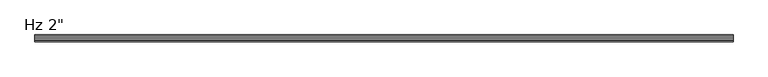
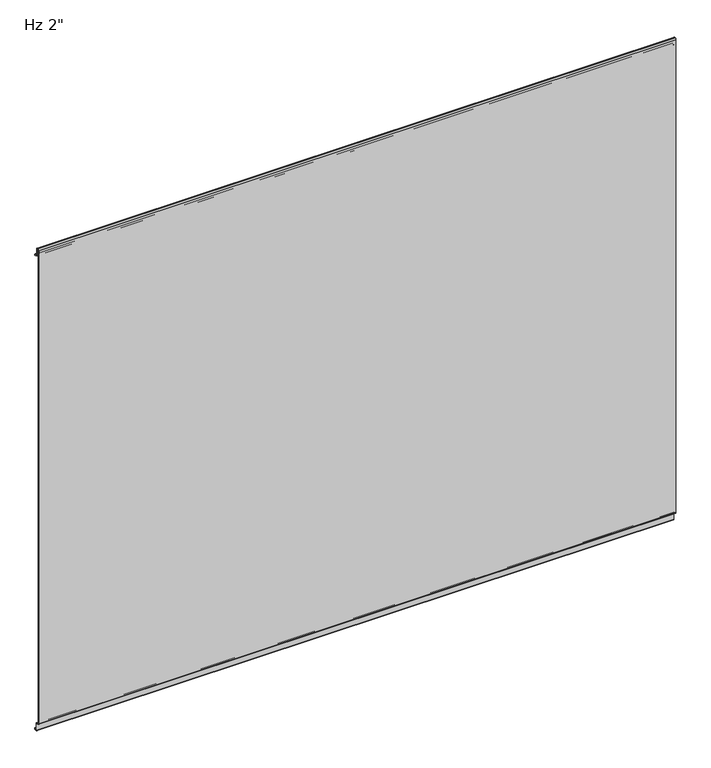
"""IFC4 building model written with IfcOpenShell, lengths in millimetres: plate geometry."""

from ifc_helpers import new_model, si_unit, frame, origin, place, context, project, spatial, polyline, circle_curve, source, transform, mapped, element, save
from ifc_brep_helpers import plane_surface, cylinder_surface, revolved_surface, advanced_brep


def plate_7cffec9f(model_context):
    return source(origin(), model_context, "Body", "AdvancedBrep", [
        advanced_brep(
        [(-730.0, -47.8223811, 3.8501063), (-730.0, -45.5308685, 3.8501063), (-730.0, -41.5535232, -0.1272391), (-730.0, -41.5535232, -15.7237514), (-730.0, -40.965666, -16.3116086), (-730.0, -37.8941346, -16.3116086), (-730.0, -37.3062635, -15.7237374), (-730.0, -37.3062635, -13.3687064), (-730.0, -36.3062599, -13.3687064), (-730.0, -36.3062599, -15.7237419), (-730.0, -37.8941364, -17.3116185), (-730.0, -40.9656851, -17.3116185), (-730.0, -42.5535616, -15.7237419), (-730.0, -42.5535616, -0.1273159), (-730.0, -45.5308302, 2.8499526), (-730.0, -47.822714, 2.8499526), (-730.0, -50.7999825, 5.8272211), (-730.0, -50.8, 1150.8100652), (-730.0, -47.8227315, 1153.7873337), (-730.0, -46.7806329, 1153.7873337), (-730.0, -43.8033644, 1150.8100652), (-730.0, -43.8033644, 1136.6216801), (-730.0, -42.2154878, 1135.0338036), (-730.0, -37.8950697, 1135.0338036), (-730.0, -36.3066023, 1133.3929042), (-730.0, -36.3066023, 1131.0482432), (-730.0, -37.3060472, 1131.0482432), (-730.0, -37.3060472, 1133.4253599), (-730.0, -37.8950842, 1134.0338971), (-730.0, -42.2153166, 1134.0338971), (-730.0, -44.8030166, 1136.6215971), (-730.0, -44.8030166, 1150.8107568), (-730.0, -46.780978, 1152.7887182), (-730.0, -47.82341, 1152.7887182), (-730.0, -49.7992912, 1150.812837), (-730.0, -49.7992912, 5.8270163), (730.0, -47.8223811, 3.8501063), (730.0, -49.7992912, 5.8270163), (730.0, -49.7992912, 1150.812837), (730.0, -47.82341, 1152.7887182), (730.0, -46.780978, 1152.7887182), (730.0, -44.8030166, 1150.8107568), (730.0, -44.8030166, 1136.6215971), (730.0, -42.2153166, 1134.0338971), (730.0, -37.8950842, 1134.0338971), (730.0, -37.3060472, 1133.4253599), (730.0, -37.3060472, 1131.0482432), (730.0, -36.3066023, 1131.0482432), (730.0, -36.3066023, 1133.3929042), (730.0, -37.8950697, 1135.0338036), (730.0, -42.2154878, 1135.0338036), (730.0, -43.8033644, 1136.6216801), (730.0, -43.8033644, 1150.8100652), (730.0, -46.7806329, 1153.7873337), (730.0, -47.8227315, 1153.7873337), (730.0, -50.8, 1150.8100652), (730.0, -50.8, 5.8272211), (730.0, -47.822714, 2.8499526), (730.0, -45.5308302, 2.8499526), (730.0, -42.5535616, -0.1273159), (730.0, -42.5535616, -15.7237419), (730.0, -40.9656851, -17.3116185), (730.0, -37.8941364, -17.3116185), (730.0, -36.3062599, -15.7237419), (730.0, -36.3062599, -13.3687064), (730.0, -37.3062635, -13.3687064), (730.0, -37.3062635, -15.7237374), (730.0, -37.8941346, -16.3116086), (730.0, -40.965666, -16.3116086), (730.0, -41.5535232, -15.7237514), (730.0, -41.5535232, -0.1272391), (730.0, -45.5308685, 3.8501063)],
        [
            (0, 1),
            (1, 2, circle_curve(frame((-730.0, -45.5308685, -0.1272391), z_axis=(-1.0, 0.0, 0.0), x_axis=(0.0, 0.0, -1.0)), 3.9773454)),
            (2, 3),
            (3, 4, circle_curve(frame((-730.0, -40.965666, -15.7237514), z_axis=(1.0, 0.0, 0.0), x_axis=(0.0, 0.0, -1.0)), 0.5878572)),
            (4, 5),
            (5, 6, circle_curve(frame((-730.0, -37.8941346, -15.7237374), z_axis=(1.0, 0.0, 0.0), x_axis=(0.0, 0.0, -1.0)), 0.5878711)),
            (6, 7),
            (7, 8),
            (8, 9),
            (9, 10, circle_curve(frame((-730.0, -37.8941364, -15.7237419), z_axis=(-1.0, 0.0, 0.0), x_axis=(0.0, 0.0, -1.0)), 1.5878765)),
            (10, 11),
            (11, 12, circle_curve(frame((-730.0, -40.9656851, -15.7237419), z_axis=(-1.0, 0.0, 0.0), x_axis=(0.0, 0.0, -1.0)), 1.5878765)),
            (12, 13),
            (13, 14, circle_curve(frame((-730.0, -45.5308302, -0.1273159), z_axis=(1.0, 0.0, 0.0), x_axis=(0.0, 0.0, -1.0)), 2.9772685)),
            (14, 15),
            (15, 16, circle_curve(frame((-730.0, -47.822714, 5.8272211), z_axis=(-1.0, 0.0, 0.0), x_axis=(0.0, 0.0, -1.0)), 2.9772685)),
            (16, 17),
            (17, 18, circle_curve(frame((-730.0, -47.8227315, 1150.8100652), z_axis=(-1.0, 0.0, 0.0), x_axis=(0.0, 0.0, -1.0)), 2.9772685)),
            (18, 19),
            (19, 20, circle_curve(frame((-730.0, -46.7806329, 1150.8100652), z_axis=(-1.0, 0.0, 0.0), x_axis=(0.0, 0.0, -1.0)), 2.9772685)),
            (20, 21),
            (21, 22, circle_curve(frame((-730.0, -42.2154878, 1136.6216801), z_axis=(1.0, 0.0, 0.0), x_axis=(0.0, 0.0, -1.0)), 1.5878765)),
            (22, 23),
            (23, 24, circle_curve(frame((-730.0, -37.8950697, 1133.4444985), z_axis=(-1.0, 0.0, 0.0), x_axis=(0.0, 0.0, -1.0)), 1.5893051)),
            (24, 25),
            (25, 26),
            (26, 27),
            (27, 28, circle_curve(frame((-730.0, -37.8950842, 1133.4445477), z_axis=(1.0, 0.0, 0.0), x_axis=(0.0, 0.0, -1.0)), 0.5893495)),
            (28, 29),
            (29, 30, circle_curve(frame((-730.0, -42.2153166, 1136.6215971), z_axis=(-1.0, 0.0, 0.0), x_axis=(0.0, 0.0, -1.0)), 2.5877)),
            (30, 31),
            (31, 32, circle_curve(frame((-730.0, -46.780978, 1150.8107568), z_axis=(1.0, 0.0, 0.0), x_axis=(0.0, 0.0, -1.0)), 1.9779614)),
            (32, 33),
            (33, 34, circle_curve(frame((-730.0, -47.82341, 1150.812837), z_axis=(1.0, 0.0, 0.0), x_axis=(0.0, 0.0, -1.0)), 1.9758812)),
            (34, 35),
            (35, 0, circle_curve(frame((-730.0, -47.8223811, 5.8270163), z_axis=(1.0, 0.0, 0.0), x_axis=(0.0, 0.0, -1.0)), 1.9769101)),
            (36, 37, circle_curve(frame((730.0, -47.8223811, 5.8270163), z_axis=(-1.0, 0.0, 0.0), x_axis=(0.0, 0.0, -1.0)), 1.9769101)),
            (37, 38),
            (38, 39, circle_curve(frame((730.0, -47.82341, 1150.812837), z_axis=(-1.0, 0.0, 0.0), x_axis=(0.0, 0.0, -1.0)), 1.9758812)),
            (39, 40),
            (40, 41, circle_curve(frame((730.0, -46.780978, 1150.8107568), z_axis=(-1.0, 0.0, 0.0), x_axis=(0.0, 0.0, -1.0)), 1.9779614)),
            (41, 42),
            (42, 43, circle_curve(frame((730.0, -42.2153166, 1136.6215971), z_axis=(1.0, 0.0, 0.0), x_axis=(0.0, 0.0, -1.0)), 2.5877)),
            (43, 44),
            (44, 45, circle_curve(frame((730.0, -37.8950842, 1133.4445477), z_axis=(-1.0, 0.0, 0.0), x_axis=(0.0, 0.0, -1.0)), 0.5893495)),
            (45, 46),
            (46, 47),
            (47, 48),
            (48, 49, circle_curve(frame((730.0, -37.8950697, 1133.4444985), z_axis=(1.0, 0.0, 0.0), x_axis=(0.0, 0.0, -1.0)), 1.5893051)),
            (49, 50),
            (50, 51, circle_curve(frame((730.0, -42.2154878, 1136.6216801), z_axis=(-1.0, 0.0, 0.0), x_axis=(0.0, 0.0, -1.0)), 1.5878765)),
            (51, 52),
            (52, 53, circle_curve(frame((730.0, -46.7806329, 1150.8100652), z_axis=(1.0, 0.0, 0.0), x_axis=(0.0, 0.0, -1.0)), 2.9772685)),
            (53, 54),
            (54, 55, circle_curve(frame((730.0, -47.8227315, 1150.8100652), z_axis=(1.0, 0.0, 0.0), x_axis=(0.0, 0.0, -1.0)), 2.9772685)),
            (55, 56),
            (56, 57, circle_curve(frame((730.0, -47.822714, 5.8272211), z_axis=(1.0, 0.0, 0.0), x_axis=(0.0, 0.0, -1.0)), 2.9772685)),
            (57, 58),
            (58, 59, circle_curve(frame((730.0, -45.5308302, -0.1273159), z_axis=(-1.0, 0.0, 0.0), x_axis=(0.0, 0.0, -1.0)), 2.9772685)),
            (59, 60),
            (60, 61, circle_curve(frame((730.0, -40.9656851, -15.7237419), z_axis=(1.0, 0.0, 0.0), x_axis=(0.0, 0.0, -1.0)), 1.5878765)),
            (61, 62),
            (62, 63, circle_curve(frame((730.0, -37.8941364, -15.7237419), z_axis=(1.0, 0.0, 0.0), x_axis=(0.0, 0.0, -1.0)), 1.5878765)),
            (63, 64),
            (64, 65),
            (65, 66),
            (66, 67, circle_curve(frame((730.0, -37.8941346, -15.7237374), z_axis=(-1.0, 0.0, 0.0), x_axis=(0.0, 0.0, -1.0)), 0.5878711)),
            (67, 68),
            (68, 69, circle_curve(frame((730.0, -40.965666, -15.7237514), z_axis=(-1.0, 0.0, 0.0), x_axis=(0.0, 0.0, -1.0)), 0.5878572)),
            (69, 70),
            (70, 71, circle_curve(frame((730.0, -45.5308685, -0.1272391), z_axis=(1.0, 0.0, 0.0), x_axis=(0.0, 0.0, -1.0)), 3.9773454)),
            (71, 36),
            (35, 37),
            (36, 0),
            (34, 38),
            (33, 39),
            (32, 40),
            (31, 41),
            (30, 42),
            (29, 43),
            (28, 44),
            (27, 45),
            (26, 46),
            (25, 47),
            (24, 48),
            (23, 49),
            (22, 50),
            (21, 51),
            (20, 52),
            (19, 53),
            (18, 54),
            (17, 55),
            (16, 56),
            (15, 57),
            (14, 58),
            (13, 59),
            (12, 60),
            (11, 61),
            (10, 62),
            (9, 63),
            (8, 64),
            (7, 65),
            (6, 66),
            (5, 67),
            (4, 68),
            (3, 69),
            (2, 70),
            (1, 71),
        ],
        [
            plane_surface(frame((-730.0, -50.8, 576.2625), z_axis=(-1.0, 0.0, 0.0), x_axis=(0.0, -1.0, 0.0))),
            plane_surface(frame((730.0, -50.8, 576.2625), z_axis=(1.0, 0.0, 0.0), x_axis=(0.0, -1.0, 0.0))),
            revolved_surface(polyline([(730.0, -47.8223811, 3.8501062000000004), (-730.0, -47.8223811, 3.8501062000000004)]), (-730.0, -47.8223811, 5.8270163), (1.0, 0.0, 0.0)),
            plane_surface(frame((-730.0, -49.7992912, 5.8270163), z_axis=(0.0, 1.0, 0.0), x_axis=(1.0, 0.0, 0.0))),
            revolved_surface(polyline([(730.0, -47.82341, 1148.8369558), (-730.0, -47.82341, 1148.8369558)]), (-730.0, -47.82341, 1150.812837), (1.0, 0.0, 0.0)),
            plane_surface(frame((-730.0, -47.82341, 1152.7887182), z_axis=(0.0, 0.0, -1.0), x_axis=(1.0, 0.0, 0.0))),
            revolved_surface(polyline([(730.0, -46.780978, 1148.8327954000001), (-730.0, -46.780978, 1148.8327954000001)]), (-730.0, -46.780978, 1150.8107568), (1.0, 0.0, 0.0)),
            plane_surface(frame((-730.0, -44.8030166, 1150.8107568), z_axis=(0.0, -1.0, 0.0), x_axis=(1.0, 0.0, 0.0))),
            cylinder_surface(frame((-730.0, -42.2153166, 1136.6215971), z_axis=(-1.0, 0.0, 0.0), x_axis=(0.0, 0.0, -1.0)), 2.5877),
            plane_surface(frame((-730.0, -42.2153166, 1134.0338971), z_axis=(0.0, 0.0, -1.0), x_axis=(1.0, 0.0, 0.0))),
            revolved_surface(polyline([(730.0, -37.8950842, 1132.8551982), (-730.0, -37.8950842, 1132.8551982)]), (-730.0, -37.8950842, 1133.4445477), (1.0, 0.0, 0.0)),
            plane_surface(frame((-730.0, -37.3060472, 1133.4253599), z_axis=(0.0, -1.0, 0.0), x_axis=(1.0, 0.0, 0.0))),
            plane_surface(frame((-730.0, -37.3060472, 1131.0482432), z_axis=(0.0, 0.0, -1.0), x_axis=(1.0, 0.0, 0.0))),
            plane_surface(frame((-730.0, -36.3066023, 1131.0482432), z_axis=(0.0, 1.0, 0.0), x_axis=(1.0, 0.0, 0.0))),
            cylinder_surface(frame((-730.0, -37.8950697, 1133.4444985), z_axis=(-1.0, 0.0, 0.0), x_axis=(0.0, 0.0, -1.0)), 1.5893051),
            plane_surface(frame((-730.0, -37.8950697, 1135.0338036), z_axis=(0.0, 0.0, 1.0), x_axis=(1.0, 0.0, 0.0))),
            revolved_surface(polyline([(730.0, -42.2154878, 1135.0338036), (-730.0, -42.2154878, 1135.0338036)]), (-730.0, -42.2154878, 1136.6216801), (1.0, 0.0, 0.0)),
            plane_surface(frame((-730.0, -43.8033644, 1136.6216801), z_axis=(0.0, 1.0, 0.0), x_axis=(1.0, 0.0, 0.0))),
            cylinder_surface(frame((-730.0, -46.7806329, 1150.8100652), z_axis=(-1.0, 0.0, 0.0), x_axis=(0.0, 0.0, -1.0)), 2.9772685),
            plane_surface(frame((-730.0, -46.7806329, 1153.7873337), z_axis=(0.0, 0.0, 1.0), x_axis=(1.0, 0.0, 0.0))),
            cylinder_surface(frame((-730.0, -47.8227315, 1150.8100652), z_axis=(-1.0, 0.0, 0.0), x_axis=(0.0, 0.0, -1.0)), 2.9772685),
            plane_surface(frame((-730.0, -50.8, 1150.8100652), z_axis=(0.0, -1.0, 0.0), x_axis=(1.0, 0.0, 0.0))),
            cylinder_surface(frame((-730.0, -47.822714, 5.8272211), z_axis=(-1.0, 0.0, 0.0), x_axis=(0.0, 0.0, -1.0)), 2.9772685),
            plane_surface(frame((-730.0, -47.822714, 2.8499526), z_axis=(0.0, 0.0, -1.0), x_axis=(1.0, 0.0, 0.0))),
            revolved_surface(polyline([(730.0, -45.5308302, -3.1045844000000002), (-730.0, -45.5308302, -3.1045844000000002)]), (-730.0, -45.5308302, -0.1273159), (1.0, 0.0, 0.0)),
            plane_surface(frame((-730.0, -42.5535616, -0.1273159), z_axis=(0.0, -1.0, 0.0), x_axis=(1.0, 0.0, 0.0))),
            cylinder_surface(frame((-730.0, -40.9656851, -15.7237419), z_axis=(-1.0, 0.0, 0.0), x_axis=(0.0, 0.0, -1.0)), 1.5878765),
            plane_surface(frame((-730.0, -40.9656851, -17.3116185), z_axis=(0.0, 0.0, -1.0), x_axis=(1.0, 0.0, 0.0))),
            cylinder_surface(frame((-730.0, -37.8941364, -15.7237419), z_axis=(-1.0, 0.0, 0.0), x_axis=(0.0, 0.0, -1.0)), 1.5878765),
            plane_surface(frame((-730.0, -36.3062599, -15.7237419), z_axis=(0.0, 1.0, 0.0), x_axis=(1.0, 0.0, 0.0))),
            plane_surface(frame((-730.0, -36.3062599, -13.3687064), z_axis=(0.0, 0.0, 1.0), x_axis=(1.0, 0.0, 0.0))),
            plane_surface(frame((-730.0, -37.3062635, -13.3687064), z_axis=(0.0, -1.0, 0.0), x_axis=(1.0, 0.0, 0.0))),
            revolved_surface(polyline([(730.0, -37.8941346, -16.3116085), (-730.0, -37.8941346, -16.3116085)]), (-730.0, -37.8941346, -15.7237374), (1.0, 0.0, 0.0)),
            plane_surface(frame((-730.0, -37.8941346, -16.3116086), z_axis=(0.0, 0.0, 1.0), x_axis=(1.0, 0.0, 0.0))),
            revolved_surface(polyline([(730.0, -40.965666, -16.3116086), (-730.0, -40.965666, -16.3116086)]), (-730.0, -40.965666, -15.7237514), (1.0, 0.0, 0.0)),
            plane_surface(frame((-730.0, -41.5535232, -15.7237514), z_axis=(0.0, 1.0, 0.0), x_axis=(1.0, 0.0, 0.0))),
            cylinder_surface(frame((-730.0, -45.5308685, -0.1272391), z_axis=(-1.0, 0.0, 0.0), x_axis=(0.0, 0.0, -1.0)), 3.9773454),
            plane_surface(frame((-730.0, -45.5308685, 3.8501063), z_axis=(0.0, 0.0, 1.0), x_axis=(1.0, 0.0, 0.0))),
        ],
        [
            (0, [[1, 2, 3, 4, 5, 6, 7, 8, 9, 10, 11, 12, 13, 14, 15, 16, 17, 18, 19, 20, 21, 22, 23, 24, 25, 26, 27, 28, 29, 30, 31, 32, 33, 34, 35, 36]]),
            (1, [[37, 38, 39, 40, 41, 42, 43, 44, 45, 46, 47, 48, 49, 50, 51, 52, 53, 54, 55, 56, 57, 58, 59, 60, 61, 62, 63, 64, 65, 66, 67, 68, 69, 70, 71, 72]]),
            (2, [[73, -37, 74, -36]]),
            (3, [[75, -38, -73, -35]]),
            (4, [[76, -39, -75, -34]]),
            (5, [[77, -40, -76, -33]]),
            (6, [[78, -41, -77, -32]]),
            (7, [[79, -42, -78, -31]]),
            (8, [[80, -43, -79, -30]]),
            (9, [[81, -44, -80, -29]]),
            (10, [[82, -45, -81, -28]]),
            (11, [[83, -46, -82, -27]]),
            (12, [[84, -47, -83, -26]]),
            (13, [[85, -48, -84, -25]]),
            (14, [[86, -49, -85, -24]]),
            (15, [[87, -50, -86, -23]]),
            (16, [[88, -51, -87, -22]]),
            (17, [[89, -52, -88, -21]]),
            (18, [[90, -53, -89, -20]]),
            (19, [[91, -54, -90, -19]]),
            (20, [[92, -55, -91, -18]]),
            (21, [[93, -56, -92, -17]]),
            (22, [[94, -57, -93, -16]]),
            (23, [[95, -58, -94, -15]]),
            (24, [[96, -59, -95, -14]]),
            (25, [[97, -60, -96, -13]]),
            (26, [[98, -61, -97, -12]]),
            (27, [[99, -62, -98, -11]]),
            (28, [[100, -63, -99, -10]]),
            (29, [[101, -64, -100, -9]]),
            (30, [[102, -65, -101, -8]]),
            (31, [[103, -66, -102, -7]]),
            (32, [[104, -67, -103, -6]]),
            (33, [[105, -68, -104, -5]]),
            (34, [[106, -69, -105, -4]]),
            (35, [[107, -70, -106, -3]]),
            (36, [[108, -71, -107, -2]]),
            (37, [[-74, -72, -108, -1]]),
        ],
    ),
    ])


if __name__ == "__main__":
    model = new_model("IFC4")
    model_context = context("Model", 3, world=origin())
    ifc_project = project(units=[si_unit("LENGTHUNIT", "METRE", prefix="MILLI")], contexts=[model_context])
    site = spatial("IfcSite", under=ifc_project)
    building = spatial("IfcBuilding", under=site)
    placement = place(None, origin())
    plate_shape = plate_7cffec9f(model_context)
    element("IfcPlate", 1, ObjectType="KIP-SLI-FLI-R19-CP-Hz-FL_SL : Hz 2\"", at=placement, inside=building, context=model_context, shape_type="MappedRepresentation", body=[
        mapped(plate_shape, transform((0.0, 0.0, 0.0), x_axis=(1.0, 0.0, 0.0), y_axis=(0.0, 1.0, 0.0), z_axis=(0.0, 0.0, 1.0))),
    ])
    save(model, "model.ifc")
